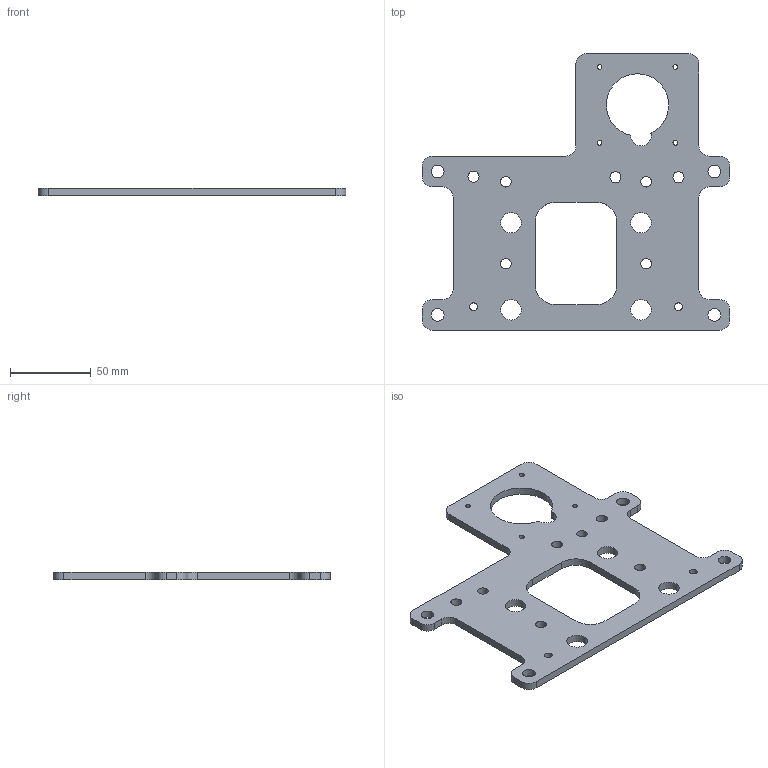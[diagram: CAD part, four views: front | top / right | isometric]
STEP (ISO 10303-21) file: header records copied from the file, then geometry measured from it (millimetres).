
FILE_DESCRIPTION (( 'STEP AP203' ), '1' );
FILE_NAME ('Gantry Carriage Plate.STEP', '2014-01-27T21:33:05', ( 'Neil' ), ( 'Hewlett-Packard Company' ), 'SwSTEP 2.0', 'SolidWorks 2010', '' );
FILE_SCHEMA (( 'CONFIG_CONTROL_DESIGN' ));
Length unit declared in the file: inch
Products named in the file (1): Gantry Carriage Plate
Bounding box: 190.5 x 171.45 x 4.76 mm (x, y, z)
Volume: 82737.6 mm3; surface area: 42211.1 mm2
Topology: 1 solids, 1 shells, 90 faces, 264 edges, 176 vertices
Faces by surface type: cylinder 68, plane 22
Entity records: 3235 total; most frequent: DIRECTION 582, CARTESIAN_POINT 531, ORIENTED_EDGE 528, EDGE_CURVE 264, AXIS2_PLACEMENT_3D 227, VERTEX_POINT 176, EDGE_LOOP 136, CIRCLE 136
